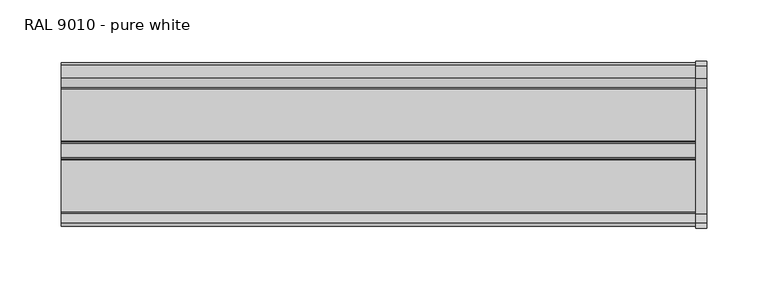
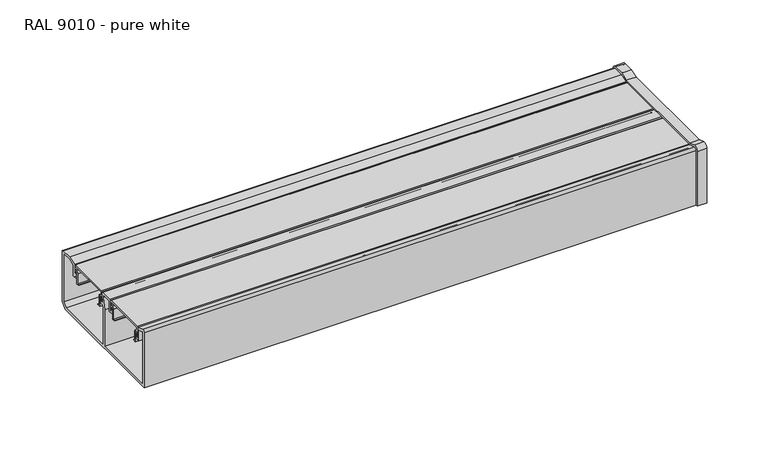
"""IFC4 building model written with IfcOpenShell, lengths in millimetres: proxy geometry, Electrical_Installations_Hager_GBD-Flat-Lid-End-Cap : RAL 9010 - pure white."""

from ifc_helpers import new_model, si_unit, point, frame, frame_2d, origin, place, context, project, spatial, polyline, circle_curve, trimmed, segment, composite_curve, outline, extrude, source, transform, mapped, element, save
from ifc_brep_helpers import plane_surface, cylinder_surface, revolved_surface, advanced_brep


def ral_9010_pure_white_778c62ee(model_context):
    return source(origin(), model_context, "Body", "SolidModel", [
        extrude(outline(composite_curve([segment(trimmed(circle_curve(frame_2d((-49.8914345, 39.6343363)), 5.8656637), [point((-55.5085432, 41.3237445))], [point((-49.8914345, 45.5))], False, "CARTESIAN"), True, "CONTINUOUS"), segment(polyline([(-49.8914345, 45.5), (43.4631366, 45.5)]), True, "CONTINUOUS"), segment(trimmed(circle_curve(frame_2d((43.4631366, 39.5252885)), 5.9747115), [point((43.4631366, 45.5))], [point((49.1782923, 41.2671763))], False, "CARTESIAN"), True, "CONTINUOUS"), segment(trimmed(circle_curve(frame_2d((-128.3197107, -12.8313689)), 185.5591379), [point((49.1782923, 41.2671763))], [point((56.7151603, 1.1074319))], False, "CARTESIAN"), True, "CONTINUOUS"), segment(trimmed(circle_curve(frame_2d((55.6880142, 1.0300563)), 1.0300563), [point((56.7151603, 1.1074319))], [point((55.6880142, 0.0))], False, "CARTESIAN"), True, "CONTINUOUS"), segment(polyline([(55.6880142, 0.0), (-62.1861095, 0.0)]), True, "CONTINUOUS"), segment(trimmed(circle_curve(frame_2d((-62.1861095, 0.9434111)), 0.9434111), [point((-62.1861095, 0.0))], [point((-63.1263922, 1.0201774))], False, "CARTESIAN"), True, "CONTINUOUS"), segment(trimmed(circle_curve(frame_2d((131.2639828, -14.8501783)), 195.0371403), [point((-63.1263922, 1.0201774))], [point((-55.5085432, 41.3237445))], False, "CARTESIAN"), True, "CONTINUOUS")], self_intersect=False)), frame((522.3392846, 0.0, 0.0), z_axis=(1.0, 0.0, 0.0), x_axis=(0.0, 1.0, 0.0)), (0.0, 0.0, 1.0), 5.5),
        advanced_brep(
        [(529.0, 68.3826134, 5.0), (529.0, 68.3826134, 54.4464817), (529.0, 64.629095, 58.2), (529.0, 54.3382065, 58.2), (529.0, 46.6439977, 55.7), (529.0, -56.7371553, 55.7), (529.0, -63.8534471, 58.0122234), (529.0, -68.7173866, 54.4783645), (529.0, -68.7173866, 0.0), (529.0, -67.2173866, 0.0), (529.0, -67.2173866, 54.4740947), (529.0, -64.3129118, 56.5843192), (529.0, -56.974732, 54.2), (529.0, 46.8815743, 54.2), (529.0, 54.5757832, 56.7), (529.0, 64.676444, 56.7), (529.0, 66.8826134, 54.4938306), (529.0, 66.8826134, 5.2469728), (529.0, 61.6356406, 0.0), (529.0, 63.3826134, 0.0), (520.0, 68.3826134, 5.0), (520.0, 63.3826134, 0.0), (520.0, -68.7173866, 0.0), (520.0, -68.7173866, 54.4783645), (520.0, -63.8534471, 58.0122234), (520.0, -56.7371553, 55.7), (520.0, 46.6439977, 55.7), (520.0, 54.3382065, 58.2), (520.0, 64.629095, 58.2), (520.0, 68.3826134, 54.4464817), (522.3392846, 68.3826134, 5.0), (522.3392846, 68.3826134, 54.4464817), (522.3392846, 64.629095, 58.2), (522.3392846, 54.3382065, 58.2), (522.3392846, 46.6439977, 55.7), (522.3392846, -56.7371553, 55.7), (522.3392846, -63.8534471, 58.0122234), (522.3392846, -68.7173866, 54.4783645), (522.3392846, 61.6356406, 0.0), (522.3392846, -67.2173866, 0.0), (522.3392846, -67.2173866, 54.4740947), (522.3392846, -64.3129118, 56.5843192), (522.3392846, -56.974732, 54.2), (522.3392846, 46.8815743, 54.2), (522.3392846, 54.5757832, 56.7), (522.3392846, 64.676444, 56.7), (522.3392846, 66.8826134, 54.4938306), (522.3392846, 66.8826134, 5.2469728)],
        [
            (0, 1),
            (1, 2, circle_curve(frame((529.0, 64.629095, 54.4464817), z_axis=(1.0, 0.0, 0.0), x_axis=(0.0, -1.0, 0.0)), 3.7535183)),
            (2, 3),
            (3, 4),
            (4, 5),
            (5, 6),
            (6, 7, circle_curve(frame((529.0, -65.0016675, 54.4783645), z_axis=(1.0, 0.0, 0.0), x_axis=(0.0, -1.0, 0.0)), 3.7157191)),
            (7, 8),
            (8, 9),
            (9, 10),
            (10, 11, circle_curve(frame((529.0, -64.9985653, 54.4740947), z_axis=(-1.0, 0.0, 0.0), x_axis=(0.0, -1.0, 0.0)), 2.2188213)),
            (11, 12),
            (12, 13),
            (13, 14),
            (14, 15),
            (15, 16, circle_curve(frame((529.0, 64.676444, 54.4938306), z_axis=(-1.0, 0.0, 0.0), x_axis=(0.0, -1.0, 0.0)), 2.2061694)),
            (16, 17),
            (17, 18),
            (18, 19),
            (19, 0),
            (20, 21),
            (21, 22),
            (22, 23),
            (23, 24, circle_curve(frame((520.0, -65.0016675, 54.4783645), z_axis=(-1.0, 0.0, 0.0), x_axis=(0.0, -1.0, 0.0)), 3.7157191)),
            (24, 25),
            (25, 26),
            (26, 27),
            (27, 28),
            (28, 29, circle_curve(frame((520.0, 64.629095, 54.4464817), z_axis=(-1.0, 0.0, 0.0), x_axis=(0.0, -1.0, 0.0)), 3.7535183)),
            (29, 20),
            (0, 30),
            (30, 20),
            (29, 31),
            (31, 1),
            (28, 32),
            (32, 2),
            (27, 33),
            (33, 3),
            (26, 34),
            (34, 4),
            (25, 35),
            (35, 5),
            (24, 36),
            (36, 6),
            (23, 37),
            (37, 7),
            (22, 8),
            (21, 19),
            (18, 38),
            (38, 39),
            (39, 9),
            (39, 40),
            (40, 10),
            (40, 41, circle_curve(frame((522.3392846, -64.9985653, 54.4740947), z_axis=(-1.0, 0.0, 0.0), x_axis=(0.0, -1.0, 0.0)), 2.2188213)),
            (41, 11),
            (41, 42),
            (42, 12),
            (42, 43),
            (43, 13),
            (43, 44),
            (44, 14),
            (44, 45),
            (45, 15),
            (45, 46, circle_curve(frame((522.3392846, 64.676444, 54.4938306), z_axis=(-1.0, 0.0, 0.0), x_axis=(0.0, -1.0, 0.0)), 2.2061694)),
            (46, 16),
            (46, 47),
            (47, 17),
            (47, 38),
        ],
        [
            plane_surface(frame((529.0, 0.0, 0.0), z_axis=(1.0, 0.0, 0.0), x_axis=(0.0, 0.0, 1.0))),
            plane_surface(frame((520.0, 0.0, 0.0), z_axis=(-1.0, 0.0, 0.0), x_axis=(0.0, 0.0, 1.0))),
            plane_surface(frame((529.0, 68.3826134, 5.0), z_axis=(0.0, 1.0, 0.0), x_axis=(-1.0, 0.0, 0.0))),
            cylinder_surface(frame((529.0, 64.629095, 54.4464817), z_axis=(1.0, 0.0, 0.0), x_axis=(0.0, -1.0, 0.0)), 3.7535183),
            plane_surface(frame((529.0, 64.629095, 58.2), z_axis=(0.0, 0.0, 1.0), x_axis=(-1.0, 0.0, 0.0))),
            plane_surface(frame((529.0, 54.3382065, 58.2), z_axis=(0.0, -0.30901699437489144, 0.9510565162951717), x_axis=(-1.0, 0.0, 0.0))),
            plane_surface(frame((529.0, 46.6439977, 55.7), z_axis=(0.0, 0.0, 1.0), x_axis=(-1.0, 0.0, 0.0))),
            plane_surface(frame((529.0, -56.7371553, 55.7), z_axis=(0.0, 0.30901699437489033, 0.9510565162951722), x_axis=(-1.0, 0.0, 0.0))),
            cylinder_surface(frame((529.0, -65.0016675, 54.4783645), z_axis=(1.0, 0.0, 0.0), x_axis=(0.0, -1.0, 0.0)), 3.7157191),
            plane_surface(frame((529.0, -68.7173866, 54.4783645), z_axis=(0.0, -1.0, 0.0), x_axis=(-1.0, 0.0, 0.0))),
            plane_surface(frame((529.0, -68.7173866, 0.0), z_axis=(0.0, 0.0, -1.0), x_axis=(-1.0, 0.0, 0.0))),
            plane_surface(frame((529.0, -67.2173866, 0.0), z_axis=(0.0, 1.0, 0.0), x_axis=(-1.0, 0.0, 0.0))),
            revolved_surface(polyline([(522.3392846, -67.2173866, 54.4740947), (529.0, -67.2173866, 54.4740947)]), (529.0, -64.9985653, 54.4740947), (-1.0, 0.0, 0.0)),
            plane_surface(frame((529.0, -64.3129118, 56.5843192), z_axis=(0.0, -0.3090169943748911, -0.951056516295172), x_axis=(-1.0, 0.0, 0.0))),
            plane_surface(frame((529.0, -56.974732, 54.2), z_axis=(0.0, 0.0, -1.0), x_axis=(-1.0, 0.0, 0.0))),
            plane_surface(frame((529.0, 46.8815743, 54.2), z_axis=(0.0, 0.30901699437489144, -0.9510565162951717), x_axis=(-1.0, 0.0, 0.0))),
            plane_surface(frame((529.0, 54.5757832, 56.7), z_axis=(0.0, 0.0, -1.0), x_axis=(-1.0, 0.0, 0.0))),
            revolved_surface(polyline([(522.3392846, 62.4702746, 54.4938306), (529.0, 62.4702746, 54.4938306)]), (529.0, 64.676444, 54.4938306), (-1.0, 0.0, 0.0)),
            plane_surface(frame((529.0, 66.8826134, 54.4938306), z_axis=(0.0, -1.0, 0.0), x_axis=(-1.0, 0.0, 0.0))),
            plane_surface(frame((529.0, 66.8826134, 5.2469728), z_axis=(0.0, -0.7071067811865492, 0.7071067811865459), x_axis=(-1.0, 0.0, 0.0))),
            plane_surface(frame((529.0, 63.3826134, 0.0), z_axis=(0.0, 0.7071067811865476, -0.7071067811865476), x_axis=(-1.0, 0.0, 0.0))),
            plane_surface(frame((522.3392846, -68.7173866, 54.4783645), z_axis=(1.0, 0.0, 0.0), x_axis=(0.0, 0.0, -1.0))),
        ],
        [
            (0, [[1, 2, 3, 4, 5, 6, 7, 8, 9, 10, 11, 12, 13, 14, 15, 16, 17, 18, 19, 20]]),
            (1, [[21, 22, 23, 24, 25, 26, 27, 28, 29, 30]]),
            (2, [[-1, 31, 32, -30, 33, 34]]),
            (3, [[-2, -34, -33, -29, 35, 36]]),
            (4, [[-3, -36, -35, -28, 37, 38]]),
            (5, [[-4, -38, -37, -27, 39, 40]]),
            (6, [[-5, -40, -39, -26, 41, 42]]),
            (7, [[-6, -42, -41, -25, 43, 44]]),
            (8, [[-7, -44, -43, -24, 45, 46]]),
            (9, [[47, -8, -46, -45, -23]]),
            (10, [[-9, -47, -22, 48, -19, 49, 50, 51]]),
            (11, [[-10, -51, 52, 53]]),
            (12, [[-11, -53, 54, 55]]),
            (13, [[-12, -55, 56, 57]]),
            (14, [[-13, -57, 58, 59]]),
            (15, [[-14, -59, 60, 61]]),
            (16, [[-15, -61, 62, 63]]),
            (17, [[-16, -63, 64, 65]]),
            (18, [[-17, -65, 66, 67]]),
            (19, [[-18, -67, 68, -49]]),
            (20, [[-20, -48, -21, -32, -31]]),
            (21, [[-50, -68, -66, -64, -62, -60, -58, -56, -54, -52]]),
        ],
    ),
        extrude(outline(composite_curve([segment(polyline([(-64.6976563, 54.0894343), (-64.6976563, 2.0), (-2.2476563, 2.0), (-2.2476563, 38.3324137), (-0.2476563, 49.6749773), (-0.2476563, 52.0), (-9.8476563, 52.0), (-9.8476563, 41.5012147), (-14.5382813, 41.5012147), (-14.5382813, 45.748101), (-13.5382813, 45.748101), (-13.5382813, 42.9887147), (-11.6476563, 42.9887147), (-11.6476563, 53.0031102)]), True, "CONTINUOUS"), segment(trimmed(circle_curve(frame_2d((-10.6507665, 53.0031102)), 0.9968898), [point((-11.6476563, 53.0031102))], [point((-10.6507665, 54.0))], False, "CARTESIAN"), True, "CONTINUOUS"), segment(polyline([(-10.6507665, 54.0), (0.7441474, 54.0)]), True, "CONTINUOUS"), segment(trimmed(circle_curve(frame_2d((0.7441474, 52.9918037)), 1.0081963), [point((0.7441474, 54.0))], [point((1.7523437, 52.9918037))], False, "CARTESIAN"), True, "CONTINUOUS"), segment(polyline([(1.7523437, 52.9918037), (1.7523437, 49.5), (0.6591165, 43.3), (3.2523437, 43.3), (3.2523437, 45.7537431), (4.2523437, 45.7537431), (4.2523437, 41.5), (0.3417279, 41.5), (-0.2476563, 38.1574364), (-0.2476563, 2.0), (60.5496526, 2.0), (64.5023437, 5.9526912), (64.5023437, 54.2), (54.8614746, 54.2), (48.5523437, 52.1500391), (48.5523437, 41.5), (44.2523437, 41.5), (44.2523437, 45.7556921), (45.2523437, 45.7556921), (45.2523437, 42.9887147), (46.7523437, 42.9887147), (46.7523437, 53.9835468), (54.4971904, 56.5), (64.8989144, 56.5)]), True, "CONTINUOUS"), segment(trimmed(circle_curve(frame_2d((64.8989144, 54.5965707)), 1.9034293), [point((64.8989144, 56.5))], [point((66.8023437, 54.5965707))], False, "CARTESIAN"), True, "CONTINUOUS"), segment(polyline([(66.8023437, 54.5965707), (66.8023437, 5.0), (61.8023437, 0.0), (-66.9976563, 0.0), (-66.9976563, 54.4045249)]), True, "CONTINUOUS"), segment(trimmed(circle_curve(frame_2d((-64.9278927, 54.4045249)), 2.0697636), [point((-66.9976563, 54.4045249))], [point((-64.2989994, 56.3764312))], False, "CARTESIAN"), True, "CONTINUOUS"), segment(polyline([(-64.2989994, 56.3764312), (-56.8429688, 53.998505), (-56.8429688, 42.9887147), (-54.6789063, 42.9887147), (-54.6789063, 45.7565885), (-53.6789063, 45.7565885), (-53.6789063, 41.5012147), (-58.4476563, 41.5012147), (-58.4476563, 52.0961433), (-64.6976563, 54.0894343)]), True, "CONTINUOUS")], self_intersect=False)), frame((0.0, 0.0, 0.0), z_axis=(1.0, 0.0, 0.0), x_axis=(0.0, 1.0, 0.0)), (0.0, 0.0, 1.0), 520.0),
        extrude(outline(composite_curve([segment(polyline([(-13.1613464, 52.5816445), (-55.0613464, 52.5816445), (-55.0613464, 49.2816445), (-53.7229555, 49.2816445)]), True, "CONTINUOUS"), segment(trimmed(circle_curve(frame_2d((-53.7229555, 47.1700354)), 2.1116091), [point((-53.7229555, 49.2816445))], [point((-51.6113464, 47.1700354))], False, "CARTESIAN"), True, "CONTINUOUS"), segment(polyline([(-51.6113464, 47.1700354), (-51.6113464, 37.6816445), (-49.7113464, 37.6816445), (-49.7113464, 36.8816445), (-52.6113464, 36.8816445), (-52.6113464, 47.3262929)]), True, "CONTINUOUS"), segment(trimmed(circle_curve(frame_2d((-53.566698, 47.3262929)), 0.9553516), [point((-52.6113464, 47.3262929))], [point((-53.566698, 48.2816445))], True, "CARTESIAN"), True, "CONTINUOUS"), segment(polyline([(-53.566698, 48.2816445), (-55.3644879, 48.2816445), (-55.3644879, 43.8012242), (-56.3660339, 43.8012242), (-56.3660339, 53.0900381)]), True, "CONTINUOUS"), segment(trimmed(circle_curve(frame_2d((-55.456072, 53.0900381)), 0.9099619), [point((-56.3660339, 53.0900381))], [point((-55.456072, 54.0))], False, "CARTESIAN"), True, "CONTINUOUS"), segment(polyline([(-55.456072, 54.0), (-12.9820268, 54.0)]), True, "CONTINUOUS"), segment(trimmed(circle_curve(frame_2d((-12.9820268, 52.9918196)), 1.0081804), [point((-12.9820268, 54.0))], [point((-11.9738464, 52.9918196))], False, "CARTESIAN"), True, "CONTINUOUS"), segment(polyline([(-11.9738464, 52.9918196), (-11.9738464, 43.8012242), (-12.858205, 43.8012242), (-12.858205, 48.2816445), (-14.6025892, 48.2816445)]), True, "CONTINUOUS"), segment(trimmed(circle_curve(frame_2d((-14.6025892, 47.2728873)), 1.0087572), [point((-14.6025892, 48.2816445))], [point((-15.6113464, 47.2728873))], True, "CARTESIAN"), True, "CONTINUOUS"), segment(polyline([(-15.6113464, 47.2728873), (-15.6113464, 36.8816445), (-18.5113464, 36.8816445), (-18.5113464, 37.6816445), (-16.6113464, 37.6816445), (-16.6113464, 47.3197896)]), True, "CONTINUOUS"), segment(trimmed(circle_curve(frame_2d((-14.6494915, 47.3197896)), 1.9618549), [point((-16.6113464, 47.3197896))], [point((-14.6494915, 49.2816445))], False, "CARTESIAN"), True, "CONTINUOUS"), segment(polyline([(-14.6494915, 49.2816445), (-13.1613464, 49.2816445), (-13.1613464, 52.5816445)]), True, "CONTINUOUS")], self_intersect=False)), frame((0.0, 0.0, 0.0), z_axis=(1.0, 0.0, 0.0), x_axis=(0.0, 1.0, 0.0)), (0.0, 0.0, 1.0), 520.0),
        extrude(outline(composite_curve([segment(polyline([(45.1923672, 52.5816445), (3.2923672, 52.5816445), (3.2923672, 49.2816445), (4.6307581, 49.2816445)]), True, "CONTINUOUS"), segment(trimmed(circle_curve(frame_2d((4.6307581, 47.1700354)), 2.1116091), [point((4.6307581, 49.2816445))], [point((6.7423672, 47.1700354))], False, "CARTESIAN"), True, "CONTINUOUS"), segment(polyline([(6.7423672, 47.1700354), (6.7423672, 37.6816445), (8.6423672, 37.6816445), (8.6423672, 36.8816445), (5.7423672, 36.8816445), (5.7423672, 47.3262929)]), True, "CONTINUOUS"), segment(trimmed(circle_curve(frame_2d((4.7870156, 47.3262929)), 0.9553516), [point((5.7423672, 47.3262929))], [point((4.7870156, 48.2816445))], True, "CARTESIAN"), True, "CONTINUOUS"), segment(polyline([(4.7870156, 48.2816445), (2.9892258, 48.2816445), (2.9892258, 43.8231023), (1.9876797, 43.8231023), (1.9876797, 53.0900381)]), True, "CONTINUOUS"), segment(trimmed(circle_curve(frame_2d((2.8976417, 53.0900381)), 0.9099619), [point((1.9876797, 53.0900381))], [point((2.8976417, 54.0))], False, "CARTESIAN"), True, "CONTINUOUS"), segment(polyline([(2.8976417, 54.0), (45.3716869, 54.0)]), True, "CONTINUOUS"), segment(trimmed(circle_curve(frame_2d((45.3716869, 52.9918196)), 1.0081804), [point((45.3716869, 54.0))], [point((46.3798672, 52.9918196))], False, "CARTESIAN"), True, "CONTINUOUS"), segment(polyline([(46.3798672, 52.9918196), (46.3798672, 43.9733035), (45.4955087, 43.9733035), (45.4955087, 48.2816445), (43.7511244, 48.2816445)]), True, "CONTINUOUS"), segment(trimmed(circle_curve(frame_2d((43.7511244, 47.2728873)), 1.0087572), [point((43.7511244, 48.2816445))], [point((42.7423672, 47.2728873))], True, "CARTESIAN"), True, "CONTINUOUS"), segment(polyline([(42.7423672, 47.2728873), (42.7423672, 36.8816445), (39.8423672, 36.8816445), (39.8423672, 37.6816445), (41.7423672, 37.6816445), (41.7423672, 47.3197896)]), True, "CONTINUOUS"), segment(trimmed(circle_curve(frame_2d((43.7042221, 47.3197896)), 1.9618549), [point((41.7423672, 47.3197896))], [point((43.7042221, 49.2816445))], False, "CARTESIAN"), True, "CONTINUOUS"), segment(polyline([(43.7042221, 49.2816445), (45.1923672, 49.2816445), (45.1923672, 52.5816445)]), True, "CONTINUOUS")], self_intersect=False)), frame((0.0, 0.0, 0.0), z_axis=(1.0, 0.0, 0.0), x_axis=(0.0, 1.0, 0.0)), (0.0, 0.0, 1.0), 520.0),
    ])


if __name__ == "__main__":
    model = new_model("IFC4")
    model_context = context("Model", 3, world=origin())
    ifc_project = project(units=[si_unit("LENGTHUNIT", "METRE", prefix="MILLI")], contexts=[model_context])
    site = spatial("IfcSite", under=ifc_project)
    building = spatial("IfcBuilding", under=site)
    placement = place(None, origin())
    ral_9010_pure_white_shape = ral_9010_pure_white_778c62ee(model_context)
    element("IfcBuildingElementProxy", 1, Name="Electrical_Installations_Hager_GBD-Flat-Lid-End-Cap : RAL 9010 - pure white", ObjectType="Electrical_Installations_Hager_GBD-Flat-Lid-End-Cap : RAL 9010 - pure white", at=placement, inside=building, context=model_context, shape_type="MappedRepresentation", body=[
        mapped(ral_9010_pure_white_shape, transform((0.0, 0.0, 0.0), x_axis=(1.0, 0.0, 0.0), y_axis=(0.0, 1.0, 0.0), z_axis=(0.0, 0.0, 1.0))),
    ])
    save(model, "model.ifc")
